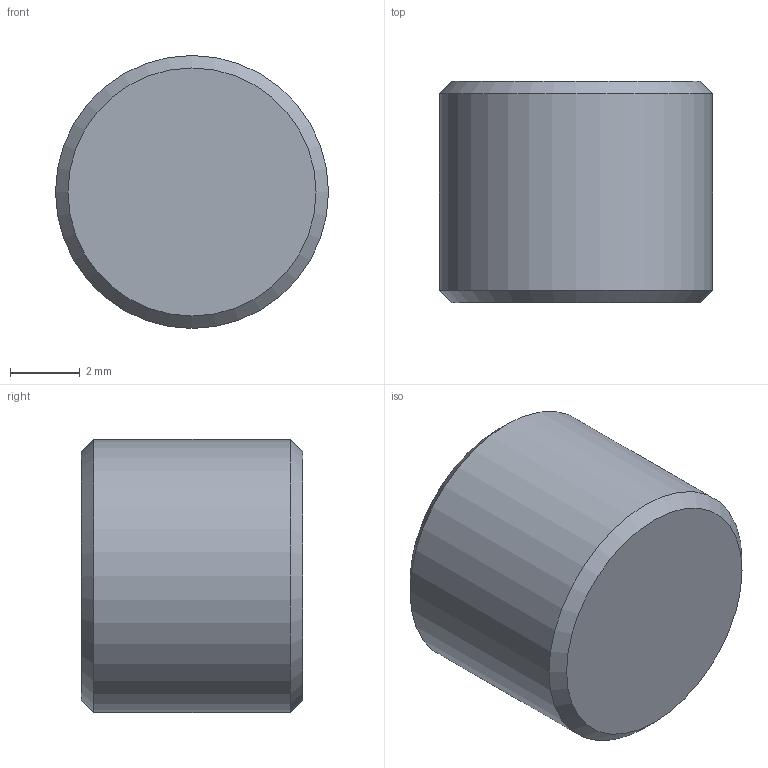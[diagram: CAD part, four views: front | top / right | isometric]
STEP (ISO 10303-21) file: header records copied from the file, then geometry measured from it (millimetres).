
FILE_DESCRIPTION(/* description */ (''),/* implementation_level */ '2;1');
FILE_NAME(/* name */ 'C:/Users/drich/Desktop/BF-16 v1.step',/* time_stamp */ '2020-01-08T20:43:03-06:00',/* author */ (''),/* organization */ (''),/* preprocessor_version */ 'ST-DEVELOPER v18',/* originating_system */ 'Autodesk Translation Framework v8.12.0.6',/* authorisation */ '');
FILE_SCHEMA (('AUTOMOTIVE_DESIGN { 1 0 10303 214 3 1 1 }'));
Length unit declared in the file: inch
Products named in the file (1): BF-16
Bounding box: 7.83 x 6.35 x 7.83 mm (x, y, z)
Volume: 248 mm3; surface area: 293.8 mm2
Topology: 1 solids, 1 shells, 13 faces, 35 edges, 25 vertices
Faces by surface type: plane 9, cone 3, cylinder 1
Full cylindrical faces by diameter (mm): 7.828 x1
Entity records: 446 total; most frequent: CARTESIAN_POINT 98, ORIENTED_EDGE 70, DIRECTION 58, EDGE_CURVE 35, VERTEX_POINT 25, AXIS2_PLACEMENT_3D 21, LINE 16, VECTOR 16
